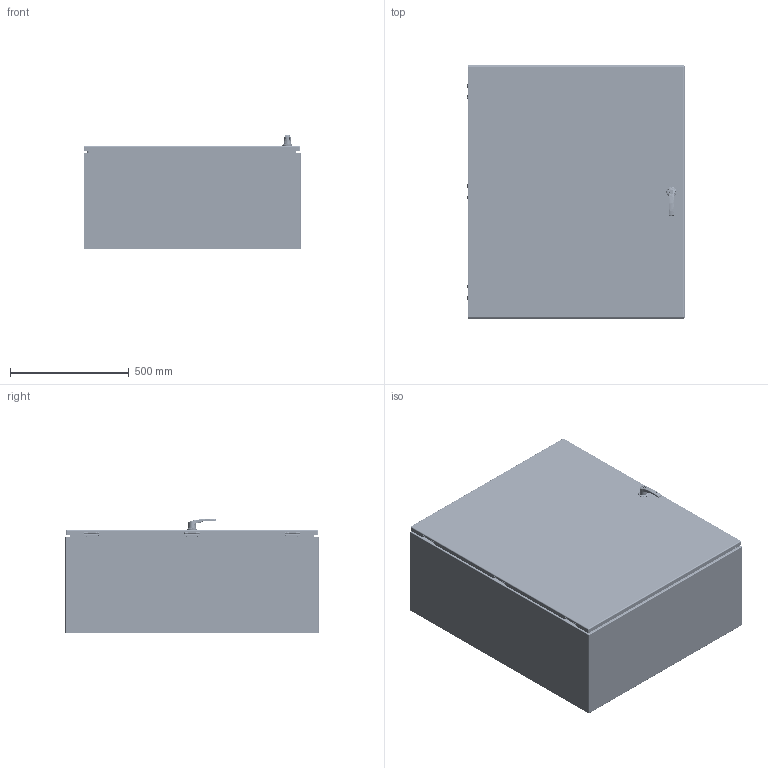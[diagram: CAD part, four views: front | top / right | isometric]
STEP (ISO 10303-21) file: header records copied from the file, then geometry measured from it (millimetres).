
FILE_DESCRIPTION(/* description */ ('5412ES 42" x 36" x 16" Assembly'),/* implementation_level */ '2;1');
FILE_NAME(/* name */ 'C:\Vault_Workspace\Inventor_Dwg\BoxCad\Result\5412ESB423616\e-mail\3D\5412ESB423616.stp',/* time_stamp */ '2022-03-23T10:53:51-04:00',/* author */ ('BoxCad'),/* organization */ (''),/* preprocessor_version */ 'ST-DEVELOPER v18.1',/* originating_system */ 'Autodesk Inventor 2020',/* authorisation */ '');
FILE_SCHEMA (('AUTOMOTIVE_DESIGN { 1 0 10303 214 3 1 1 }'));
Products named in the file (59): 5412ESB423616; 5412ESB423616B; 5412ESB423616B-P; STK-Q-16005; STUD_M6 x 16mm; STK-Q-07610; 881SP4236G; 881SP4236G-P; STK-Q-07310; 5412ESB423616C; 5412ESB423616C-P; 5412ESB423616G; STK-K-09800; STK-K-09800-2; STK-K-09800-3; STK-Q-33014; STK-Q-90398; STK-Q-40095; STK-Q-63410; STK-Q-16405; STK-Q-46020-42; STK-Q-46025-36-3; STK-Q-07220-1; STK-Q-07220-2; STK-Q-07220-3; STK-Q-07220-4; STK-Q-07220-5; STK-Q-07220-6; STK-Q-07220-7; STK-Q-07220-8; STK-Q-07220-9; STK-Q-07220-10; STK-Q-07220-A; STK-Q-07220-B; STK-Q-16055; STK-Q-46515-1; STK-Q-46515-B; STK-Q-46515-A; STK-P-03820R; STK-S-00100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
Assembly tree (131 placements, depth 4):
  5412ESB423616
    5412ESB423616B
      5412ESB423616B-P
      STK-Q-16005  x8
      STK-P-03820R
      STUD_M6 x 16mm
    STK-Q-07610  x8
    881SP4236G
      881SP4236G-P
    STK-Q-07310  x8
    5412ESB423616C
      5412ESB423616C-P
      5412ESB423616G
      STK-K-09800
        STK-Q-33014
        STK-Q-90398
        STK-Q-40095  x2
        STK-Q-63410  x2
      STK-K-09800-2
        STK-Q-33014
        STK-Q-90398
        STK-Q-40095  x2
        STK-Q-63410  x2
      STK-K-09800-3
        STK-Q-33014
        STK-Q-90398
        STK-Q-40095  x2
        STK-Q-63410  x2
      STK-Q-16055  x11
      STK-Q-16405  x2
      STK-Q-46020-42  x2
      STK-Q-46025-36-3  x2
      STK-Q-07220-1
        STK-Q-07220-A
        STK-Q-07220-B
      STK-Q-07220-2
        STK-Q-07220-A
        STK-Q-07220-B
      STK-Q-07220-3
        STK-Q-07220-A
        STK-Q-07220-B
      STK-Q-07220-4
        STK-Q-07220-A
        STK-Q-07220-B
      STK-Q-07220-5
        STK-Q-07220-A
        STK-Q-07220-B
      STK-Q-07220-6
        STK-Q-07220-A
        STK-Q-07220-B
      STK-Q-07220-7
        STK-Q-07220-A
        STK-Q-07220-B
      STK-Q-07220-8
        STK-Q-07220-A
        STK-Q-07220-B
      STK-Q-07220-9
        STK-Q-07220-A
        STK-Q-07220-B
      STK-Q-07220-10
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Bounding box: 914.85 x 1066.8 x 482.99 mm (x, y, z)
Volume: 9548640.6 mm3; surface area: 10045191.5 mm2
Topology: 106 solids, 106 shells, 17405 faces, 47240 edges, 30273 vertices
Faces by surface type: bspline 6709, cylinder 4881, plane 3972, torus 1252, sphere 304, cone 287
Full cylindrical faces by diameter (mm): 0 x1, 0.75 x22, 0.762 x22, 1 x12, 1.1 x12, 1.581 x1, 2.459 x1, 3.2 x6, 4.191 x134, 4.2 x2, 4.5 x11, 4.521 x12, 4.75 x3, 4.85 x24, 4.95 x6, 5 x10, 5.1 x34, 5.105 x13, 5.11 x1, 5.156 x2, 5.6 x3, 5.9 x22, 6.015 x134, 6.65 x8, 6.8 x10, 6.85 x32, 7.112 x6, 7.3 x3, 7.366 x4, 7.468 x2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
Entity records: 214061 total; most frequent: CARTESIAN_POINT 79751, ORIENTED_EDGE 29900, DIRECTION 23637, EDGE_CURVE 14950, VERTEX_POINT 9486, AXIS2_PLACEMENT_3D 8722, EDGE_LOOP 6362, LINE 6193
